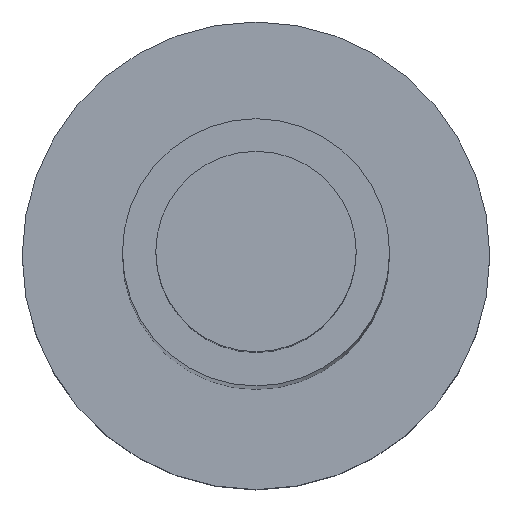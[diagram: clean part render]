
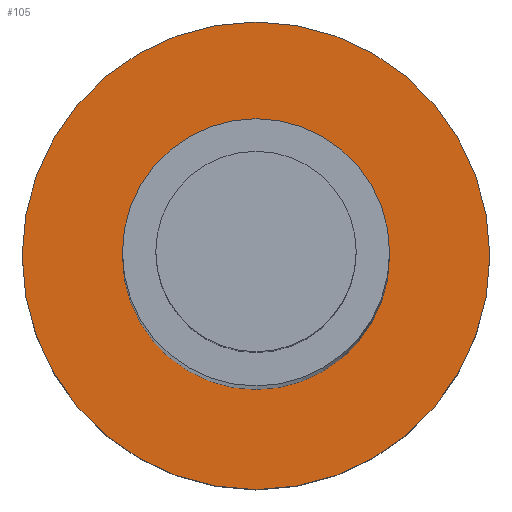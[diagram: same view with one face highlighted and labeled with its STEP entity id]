
A CAD part, top view. The second image highlights one B-rep face of the part: STEP entity #105.
In plain terms, the highlighted planar face has unit normal (0, 0, 1).
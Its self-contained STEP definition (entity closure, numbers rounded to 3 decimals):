
#21 = EDGE_CURVE('',#22,#22,#24,.T.);
#22 = VERTEX_POINT('',#23);
#23 = CARTESIAN_POINT('',(3.5,0.,0.));
#24 = SURFACE_CURVE('',#25,(#30,#42),.PCURVE_S1.);
#25 = CIRCLE('',#26,3.5);
#26 = AXIS2_PLACEMENT_3D('',#27,#28,#29);
#27 = CARTESIAN_POINT('',(0.,0.,0.));
#28 = DIRECTION('',(0.,0.,1.));
#29 = DIRECTION('',(1.,0.,-0.));
#30 = PCURVE('',#31,#36);
#31 = CYLINDRICAL_SURFACE('',#32,3.5);
#32 = AXIS2_PLACEMENT_3D('',#33,#34,#35);
#33 = CARTESIAN_POINT('',(0.,0.,-3.));
#34 = DIRECTION('',(0.,0.,1.));
#35 = DIRECTION('',(1.,0.,-0.));
#36 = DEFINITIONAL_REPRESENTATION('',(#37),#41);
#37 = LINE('',#38,#39);
#38 = CARTESIAN_POINT('',(0.,3.));
#39 = VECTOR('',#40,1.);
#40 = DIRECTION('',(1.,0.));
#41 = ( GEOMETRIC_REPRESENTATION_CONTEXT(2) 
PARAMETRIC_REPRESENTATION_CONTEXT() REPRESENTATION_CONTEXT('2D SPACE',''
  ) );
#42 = PCURVE('',#43,#48);
#43 = PLANE('',#44);
#44 = AXIS2_PLACEMENT_3D('',#45,#46,#47);
#45 = CARTESIAN_POINT('',(0.,0.,0.));
#46 = DIRECTION('',(0.,0.,1.));
#47 = DIRECTION('',(1.,0.,-0.));
#48 = DEFINITIONAL_REPRESENTATION('',(#49),#53);
#49 = CIRCLE('',#50,3.5);
#50 = AXIS2_PLACEMENT_2D('',#51,#52);
#51 = CARTESIAN_POINT('',(0.,0.));
#52 = DIRECTION('',(1.,0.));
#53 = ( GEOMETRIC_REPRESENTATION_CONTEXT(2) 
PARAMETRIC_REPRESENTATION_CONTEXT() REPRESENTATION_CONTEXT('2D SPACE',''
  ) );
#105 = ADVANCED_FACE('',(#106,#109),#43,.T.);
#106 = FACE_BOUND('',#107,.T.);
#107 = EDGE_LOOP('',(#108));
#108 = ORIENTED_EDGE('',*,*,#21,.T.);
#109 = FACE_BOUND('',#110,.T.);
#110 = EDGE_LOOP('',(#111));
#111 = ORIENTED_EDGE('',*,*,#112,.F.);
#112 = EDGE_CURVE('',#113,#113,#115,.T.);
#113 = VERTEX_POINT('',#114);
#114 = CARTESIAN_POINT('',(2.,0.,0.));
#115 = SURFACE_CURVE('',#116,(#121,#128),.PCURVE_S1.);
#116 = CIRCLE('',#117,2.);
#117 = AXIS2_PLACEMENT_3D('',#118,#119,#120);
#118 = CARTESIAN_POINT('',(0.,0.,0.));
#119 = DIRECTION('',(0.,0.,1.));
#120 = DIRECTION('',(1.,0.,-0.));
#121 = PCURVE('',#43,#122);
#122 = DEFINITIONAL_REPRESENTATION('',(#123),#127);
#123 = CIRCLE('',#124,2.);
#124 = AXIS2_PLACEMENT_2D('',#125,#126);
#125 = CARTESIAN_POINT('',(0.,0.));
#126 = DIRECTION('',(1.,0.));
#127 = ( GEOMETRIC_REPRESENTATION_CONTEXT(2) 
PARAMETRIC_REPRESENTATION_CONTEXT() REPRESENTATION_CONTEXT('2D SPACE',''
  ) );
#128 = PCURVE('',#129,#134);
#129 = CYLINDRICAL_SURFACE('',#130,2.);
#130 = AXIS2_PLACEMENT_3D('',#131,#132,#133);
#131 = CARTESIAN_POINT('',(0.,0.,0.));
#132 = DIRECTION('',(0.,0.,1.));
#133 = DIRECTION('',(1.,0.,-0.));
#134 = DEFINITIONAL_REPRESENTATION('',(#135),#139);
#135 = LINE('',#136,#137);
#136 = CARTESIAN_POINT('',(0.,0.));
#137 = VECTOR('',#138,1.);
#138 = DIRECTION('',(1.,0.));
#139 = ( GEOMETRIC_REPRESENTATION_CONTEXT(2) 
PARAMETRIC_REPRESENTATION_CONTEXT() REPRESENTATION_CONTEXT('2D SPACE',''
  ) );
